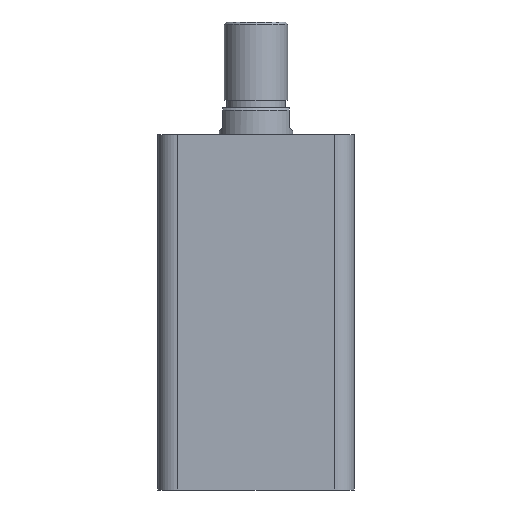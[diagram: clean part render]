
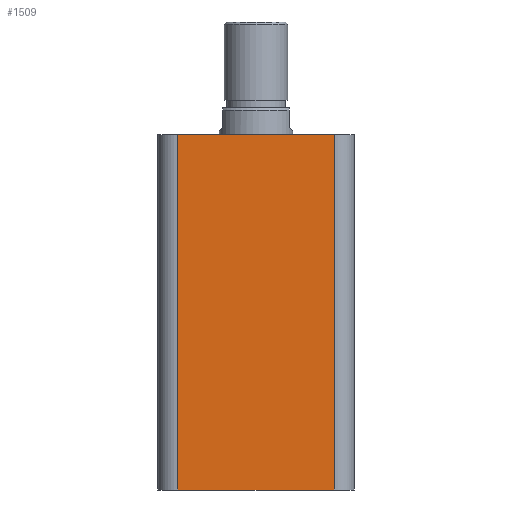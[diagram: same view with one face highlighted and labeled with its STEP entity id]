
A CAD part, front view. The second image highlights one B-rep face of the part: STEP entity #1509.
In plain terms, the highlighted planar face has unit normal (0, -1, 0).
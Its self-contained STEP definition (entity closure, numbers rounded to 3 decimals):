
#290 = VERTEX_POINT ( 'NONE', #1026 ) ;
#361 = VERTEX_POINT ( 'NONE', #964 ) ;
#394 = VERTEX_POINT ( 'NONE', #1001 ) ;
#406 = VERTEX_POINT ( 'NONE', #1013 ) ;
#539 = VECTOR ( 'NONE', #1858, 1000. ) ;
#542 = LINE ( 'NONE', #1853, #539 ) ;
#544 = LINE ( 'NONE', #1851, #549 ) ;
#549 = VECTOR ( 'NONE', #1850, 1000. ) ;
#622 = FACE_OUTER_BOUND ( 'NONE', #1426, .T. ) ;
#676 = VECTOR ( 'NONE', #2140, 1000. ) ;
#678 = VECTOR ( 'NONE', #2143, 1000. ) ;
#679 = LINE ( 'NONE', #2142, #676 ) ;
#681 = LINE ( 'NONE', #2144, #678 ) ;
#848 = EDGE_CURVE ( 'NONE', #361, #406, #681, .T. ) ;
#849 = EDGE_CURVE ( 'NONE', #361, #394, #679, .T. ) ;
#964 = CARTESIAN_POINT ( 'NONE',  ( -32., -40., 145. ) ) ;
#1001 = CARTESIAN_POINT ( 'NONE',  ( -32., -40., 0. ) ) ;
#1013 = CARTESIAN_POINT ( 'NONE',  ( 32., -40., 145. ) ) ;
#1026 = CARTESIAN_POINT ( 'NONE',  ( 32., -40., 0. ) ) ;
#1426 = EDGE_LOOP ( 'NONE', ( #2366, #2367, #2368, #2370 ) ) ;
#1509 = ADVANCED_FACE ( 'NONE', ( #622 ), #2019, .F. ) ;
#1850 = DIRECTION ( 'NONE',  ( 1., 0., 0. ) ) ;
#1851 = CARTESIAN_POINT ( 'NONE',  ( -40., -40., 0. ) ) ;
#1853 = CARTESIAN_POINT ( 'NONE',  ( 32., -40., 145. ) ) ;
#1858 = DIRECTION ( 'NONE',  ( 0., 0., 1. ) ) ;
#2015 = DIRECTION ( 'NONE',  ( 0., 0., 1. ) ) ;
#2016 = DIRECTION ( 'NONE',  ( 0., 1., 0. ) ) ;
#2019 = PLANE ( 'NONE',  #2564 ) ;
#2024 = CARTESIAN_POINT ( 'NONE',  ( -40., -40., 145. ) ) ;
#2140 = DIRECTION ( 'NONE',  ( 0., 0., -1. ) ) ;
#2142 = CARTESIAN_POINT ( 'NONE',  ( -32., -40., 145. ) ) ;
#2143 = DIRECTION ( 'NONE',  ( 1., 0., 0. ) ) ;
#2144 = CARTESIAN_POINT ( 'NONE',  ( -40., -40., 145. ) ) ;
#2366 = ORIENTED_EDGE ( 'NONE', *, *, #848, .F. ) ;
#2367 = ORIENTED_EDGE ( 'NONE', *, *, #849, .T. ) ;
#2368 = ORIENTED_EDGE ( 'NONE', *, *, #2388, .T. ) ;
#2370 = ORIENTED_EDGE ( 'NONE', *, *, #2389, .T. ) ;
#2388 = EDGE_CURVE ( 'NONE', #394, #290, #544, .T. ) ;
#2389 = EDGE_CURVE ( 'NONE', #290, #406, #542, .T. ) ;
#2564 = AXIS2_PLACEMENT_3D ( 'NONE', #2024, #2016, #2015 ) ;
